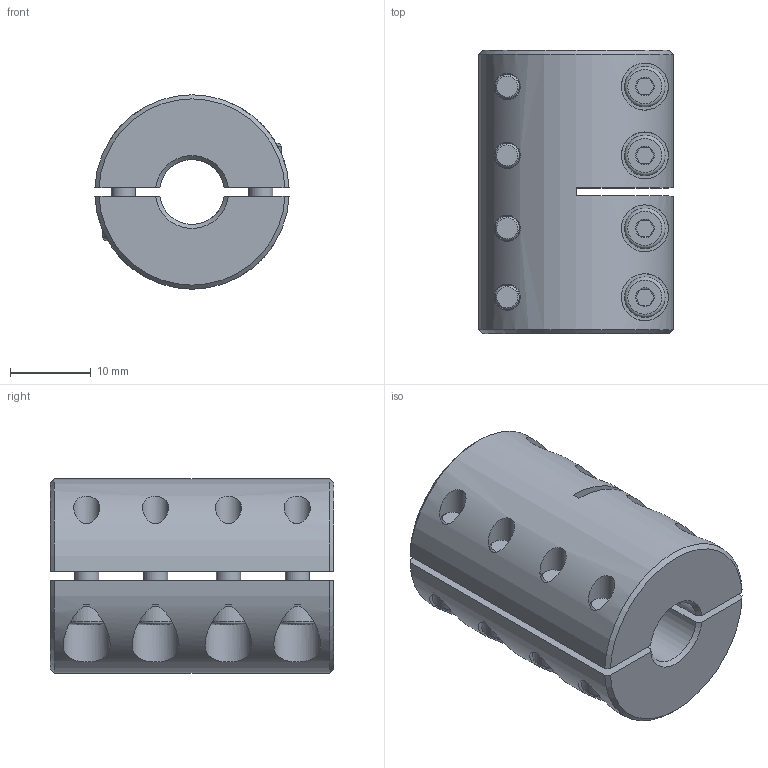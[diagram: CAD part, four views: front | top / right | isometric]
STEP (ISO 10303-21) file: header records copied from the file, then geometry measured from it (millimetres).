
FILE_DESCRIPTION( ( 'Unknown' ), '1' );
FILE_NAME( 'K:/Konstruktion/Fertigungszeichnungen/Schalenkupplung/KBST-G/KBST-G-8.stp', 'Unknown', ( 'Unknown' ), ( 'Unknown' ), 'PSStep 16.0.42', 'Unknown', ' ' );
FILE_SCHEMA( ( 'AUTOMOTIVE_DESIGN { 1 0 10303 214 1 1 1 1 }' ) );
Length unit declared in the file: millimetre
Products named in the file (4): Assem1; KBST-G-8; ISO EN DIN 4762 M3x10
Assembly tree (10 placements, depth 2):
  Assem1
    KBST-G-8
    KBST-G-8
    ISO EN DIN 4762 M3x10  x8
Bounding box: 23.98 x 35 x 24 mm (x, y, z)
Volume: 12611.1 mm3; surface area: 8051.2 mm2
Topology: 10 solids, 10 shells, 260 faces, 500 edges, 300 vertices
Faces by surface type: plane 120, cone 64, cylinder 60, torus 16
Full cylindrical faces by diameter (mm): 2.459 x4, 2.98 x8, 3 x16, 3.2 x8, 3.242 x4, 5 x8, 5.8 x8
Entity records: 3950 total; most frequent: CARTESIAN_POINT 1348, DIRECTION 382, ORIENTED_EDGE 310, AXIS2_PLACEMENT_3D 169, EDGE_LOOP 160, EDGE_CURVE 155, VERTEX_POINT 119, FACE_OUTER_BOUND 115
